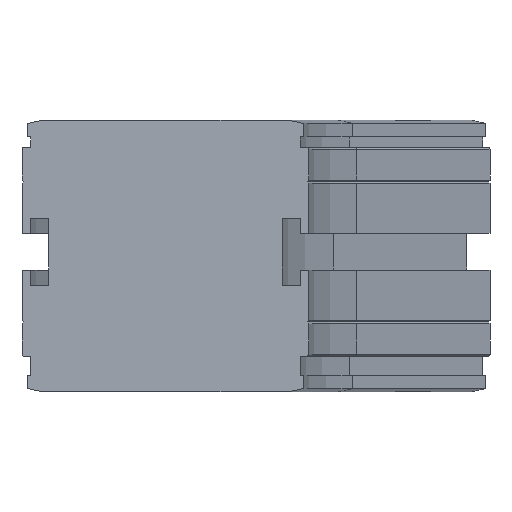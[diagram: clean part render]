
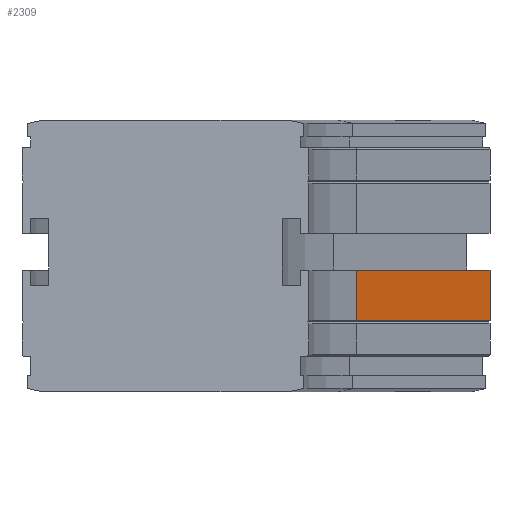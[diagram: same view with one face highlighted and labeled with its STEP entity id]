
A CAD part, left-side view. The second image highlights one B-rep face of the part: STEP entity #2309.
In plain terms, the highlighted planar face has unit normal (-0.5, -0.866, 0).
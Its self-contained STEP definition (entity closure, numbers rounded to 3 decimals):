
#2253=CARTESIAN_POINT('',(202.782,-97.335,-60.));
#2254=VERTEX_POINT('',#2253);
#2261=CARTESIAN_POINT('',(133.5,-57.335,-60.));
#2262=VERTEX_POINT('',#2261);
#2263=CARTESIAN_POINT('',(133.5,-57.335,-60.));
#2264=DIRECTION('',(0.866,-0.5,0.0));
#2265=VECTOR('',#2264,80.0);
#2266=LINE('',#2263,#2265);
#2267=EDGE_CURVE('',#2262,#2254,#2266,.T.);
#2279=CARTESIAN_POINT('',(133.5,-57.335,-60.));
#2280=DIRECTION('',(-0.5,-0.866,0.));
#2281=DIRECTION('',(0.0,0.0,-1.0));
#2282=AXIS2_PLACEMENT_3D('',#2279,#2280,#2281);
#2283=PLANE('',#2282);
#2284=CARTESIAN_POINT('',(202.782,-97.335,-45.));
#2285=VERTEX_POINT('',#2284);
#2286=CARTESIAN_POINT('',(202.782,-97.335,-60.));
#2287=DIRECTION('',(0.0,0.0,1.0));
#2288=VECTOR('',#2287,15.0);
#2289=LINE('',#2286,#2288);
#2290=EDGE_CURVE('',#2254,#2285,#2289,.T.);
#2291=ORIENTED_EDGE('',*,*,#2290,.T.);
#2292=CARTESIAN_POINT('',(133.5,-57.335,-45.));
#2293=VERTEX_POINT('',#2292);
#2294=CARTESIAN_POINT('',(133.5,-57.335,-45.));
#2295=DIRECTION('',(0.866,-0.5,0.0));
#2296=VECTOR('',#2295,80.0);
#2297=LINE('',#2294,#2296);
#2298=EDGE_CURVE('',#2293,#2285,#2297,.T.);
#2299=ORIENTED_EDGE('',*,*,#2298,.F.);
#2300=CARTESIAN_POINT('',(133.5,-57.335,-60.));
#2301=DIRECTION('',(0.0,0.0,1.0));
#2302=VECTOR('',#2301,15.0);
#2303=LINE('',#2300,#2302);
#2304=EDGE_CURVE('',#2262,#2293,#2303,.T.);
#2305=ORIENTED_EDGE('',*,*,#2304,.F.);
#2306=ORIENTED_EDGE('',*,*,#2267,.T.);
#2307=EDGE_LOOP('',(#2291,#2299,#2305,#2306));
#2308=FACE_OUTER_BOUND('',#2307,.T.);
#2309=ADVANCED_FACE('',(#2308),#2283,.T.);
